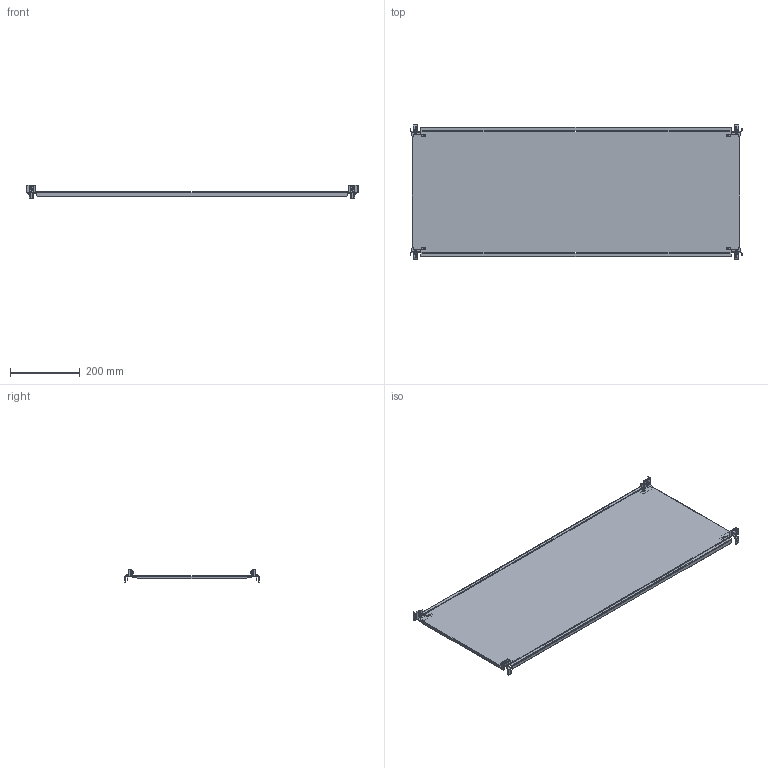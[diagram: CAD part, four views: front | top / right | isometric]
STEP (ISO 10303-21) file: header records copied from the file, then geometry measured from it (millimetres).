
FILE_DESCRIPTION(('CAx-IF Rec.Pracs.---Model Styling and Organization---1.2---2011-12-15','CAx-IF Rec.Pracs.---Geometric and Assembly Validation Properties---4.1---2014-06-16','CAx-IF Rec.Pracs.---PMI Polyline Presentation---2.0---2013-05-24'),'2;1');
FILE_NAME('R5CPB1040.stp','2021-05-06T03:28:36+03:00',(''),(''),'STEP Interface 4.4 by CT CoreTechnologie','3D_Evolution4.4 by CT CoreTechnologie','');
FILE_SCHEMA(('AUTOMOTIVE_DESIGN { 1 0 10303 214 1 1 1 1 }'));
Length unit declared in the file: millimetre
Products named in the file (6): R5CPB1040; AC00C485; RB.0546.00.00.0_-00; RB.0546.00.00.0_-01; M6x16-DIN 7985 ISR_thread; RB.0726.00.00.0_-27
Assembly tree (13 placements, depth 2):
  R5CPB1040
    AC00C485  x4
    RB.0546.00.00.0_-00  x2
    RB.0546.00.00.0_-01  x2
    M6x16-DIN 7985 ISR_thread  x4
    RB.0726.00.00.0_-27
Bounding box: 955 x 387 x 39.05 mm (x, y, z)
Surface area: 762211.7 mm2 (no closed solid volume)
Topology: 0 solids, 21 shells, 582 faces, 1480 edges, 928 vertices
Faces by surface type: plane 322, cylinder 204, bspline 56
Entity records: 8757 total; most frequent: CARTESIAN_POINT 1893, ORIENTED_EDGE 1354, DIRECTION 1316, EDGE_CURVE 677, VECTOR 522, LINE 522, VERTEX_POINT 438, AXIS2_PLACEMENT_3D 397
